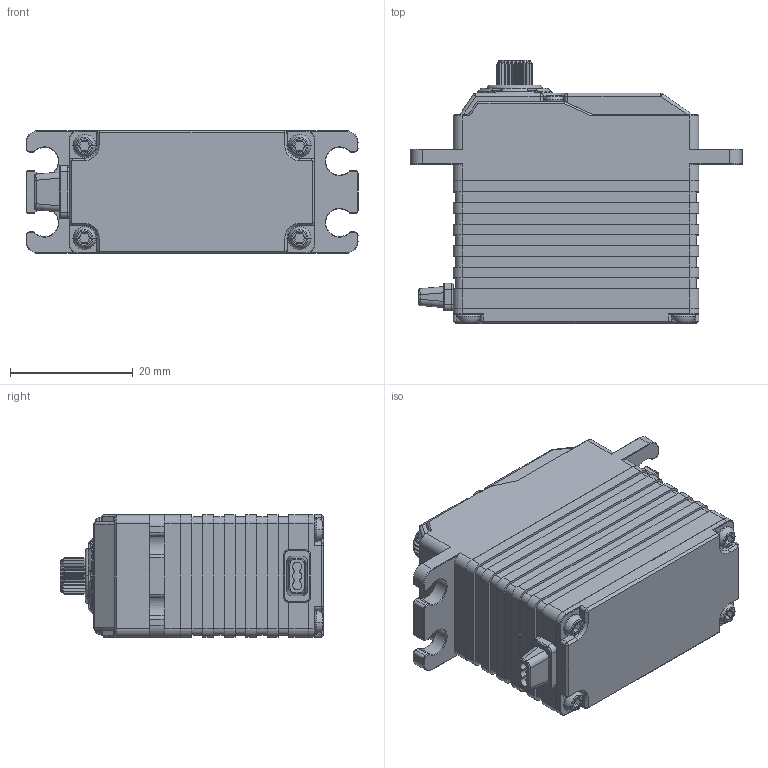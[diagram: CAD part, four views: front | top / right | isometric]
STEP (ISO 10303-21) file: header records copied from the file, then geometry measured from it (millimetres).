
FILE_DESCRIPTION((''),'2;1');
FILE_NAME('RS46','2025-05-05T',('扂'),(''),'PRO/ENGINEER BY PARAMETRIC TECHNOLOGY CORPORATION, 2010280','PRO/ENGINEER BY PARAMETRIC TECHNOLOGY CORPORATION, 2010280','');
FILE_SCHEMA(('CONFIG_CONTROL_DESIGN'));
Length unit declared in the file: millimetre
Products named in the file (1): DDJ-STDCAR6-A81-AGF
Bounding box: 54 x 42.9 x 20 mm (x, y, z)
Volume: 29602.2 mm3; surface area: 7395.6 mm2
Topology: 1 solids, 1 shells, 837 faces, 2109 edges, 1288 vertices
Faces by surface type: plane 317, cylinder 316, cone 88, torus 80, sphere 20, bspline 16
Entity records: 28324 total; most frequent: CARTESIAN_POINT 8184, DIRECTION 4319, ORIENTED_EDGE 4184, EDGE_CURVE 2092, AXIS2_PLACEMENT_3D 1610, VERTEX_POINT 1288, VECTOR 1099, LINE 1099
